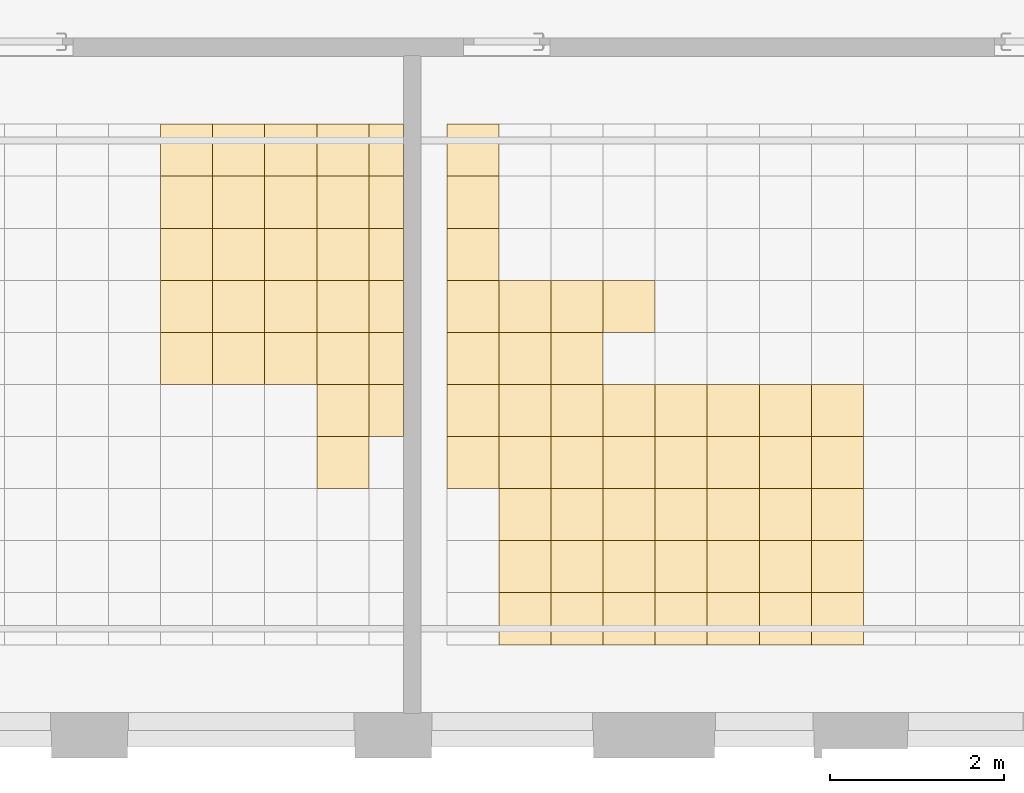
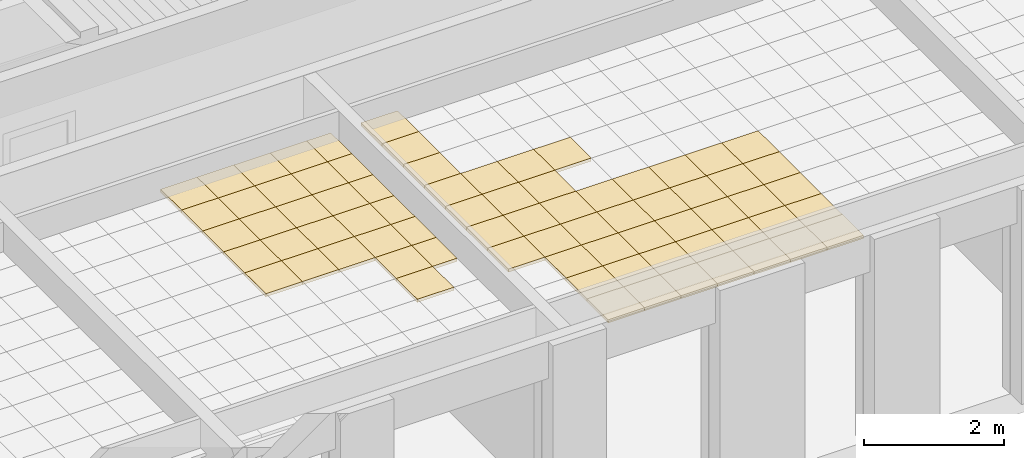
# One storey, part 73 of 79: 75 coverings.
"""IFC2X3 building model written with IfcOpenShell, lengths in millimetres."""

from ifc_helpers import new_model, entity, si_unit, converted_unit, derived_unit, money_unit, direction, frame, origin_with_axes, place, context, subcontext, project, spatial, faceted_brep, material, material_list, type_object, element, save


model = new_model("IFC2X3")

# Units and contexts
model_context = context("Model", 3, precision=0.01, world=origin_with_axes(), true_north=direction((0.0, 1.0)))
body_context = subcontext(model_context, "Body", "Model", "MODEL_VIEW")
ifc_project = project(units=[si_unit("LENGTHUNIT", "METRE", prefix="MILLI"), si_unit("AREAUNIT", "SQUARE_METRE"), si_unit("VOLUMEUNIT", "CUBIC_METRE"), converted_unit("PLANEANGLEUNIT", "DEGREE", entity("IfcPlaneAngleMeasure", 0.0174532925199), si_unit("PLANEANGLEUNIT", "RADIAN"), dimensions=[0, 0, 0, 0, 0, 0, 0]), si_unit("SOLIDANGLEUNIT", "STERADIAN"), money_unit("EUR"), converted_unit("TIMEUNIT", "Year", entity("IfcTimeMeasure", 31556926.0), si_unit("TIMEUNIT", "SECOND"), dimensions=[0, 0, 1, 0, 0, 0, 0]), si_unit("MASSUNIT", "GRAM", prefix="KILO"), si_unit("THERMODYNAMICTEMPERATUREUNIT", "DEGREE_CELSIUS"), si_unit("LUMINOUSINTENSITYUNIT", "LUMEN"), si_unit("ENERGYUNIT", "JOULE", prefix="MEGA"), derived_unit("THERMALCONDUCTANCEUNIT", [(si_unit("POWERUNIT", "WATT"), 1), (si_unit("LENGTHUNIT", "METRE"), -1), (si_unit("THERMODYNAMICTEMPERATUREUNIT", "KELVIN"), -1)]), derived_unit("SPECIFICHEATCAPACITYUNIT", [(si_unit("ENERGYUNIT", "JOULE"), 1), (si_unit("MASSUNIT", "GRAM", prefix="KILO"), -1), (si_unit("THERMODYNAMICTEMPERATUREUNIT", "KELVIN"), -1)]), derived_unit("MASSDENSITYUNIT", [(si_unit("MASSUNIT", "GRAM", prefix="KILO"), 1), (si_unit("VOLUMEUNIT", "CUBIC_METRE"), -1)])], contexts=[model_context])

# Site, building, storey
site_placement = place(None, origin_with_axes())
site = spatial("IfcSite", under=ifc_project, at=site_placement, Name="L.Koidula tn 11b", CompositionType="ELEMENT")
building_placement = place(site_placement, origin_with_axes())
building = spatial("IfcBuilding", under=site, at=building_placement, Name="Rakvere Riigigümnaasium", CompositionType="ELEMENT")
storey_placement = place(building_placement, frame((0.0, 0.0, 3720.0), z_axis=(0.0, 0.0, 1.0), x_axis=(1.0, 0.0, 0.0)))
storey = spatial("IfcBuildingStorey", under=building, at=storey_placement, Name="2.korrus +3,72", CompositionType="ELEMENT", Elevation=3720.0)

# Coverings
ifc_material_1 = material(Name="Karkass")
ifc_material_2 = material(Name="Kipsplaat")
ifc_material_list = material_list([ifc_material_1, ifc_material_2])
covering_type = type_object("IfcCoveringType", Name="SA-LV-Kips-moodul 55", PredefinedType="CEILING")
for number, where, z_axis, x_axis, name in (
    (1, (79169.7175594, 10490.4535941, 2750.0), (0.0, 0.0, 1.0), (1.0, 0.0, 0.0), "L-03"),
    (2, (77969.717611, 9890.45359412, 2750.0), (0.0, 0.0, 1.0), (1.0, 0.0, 0.0), "L-03"),
    (3, (77969.717611, 11690.4535941, 2750.0), (0.0, 0.0, 1.0), (1.0, 0.0, 0.0), "L-03"),
):
    element("IfcCovering", number, at=place(storey_placement, frame(where, z_axis=z_axis, x_axis=x_axis)), inside=storey, type_object=covering_type, material=ifc_material_list, Name=name, PredefinedType="CEILING", context=body_context, shape_type="Brep", body=[
        faceted_brep([(599.999948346, 0.0, 12.5), (599.999948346, 0.0, 54.5), (0.0, 0.0, 54.5), (0.0, 0.0, 12.5), (599.999948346, 600.0, 12.5), (599.999948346, 600.0, 54.5), (0.0, 600.0, 54.5), (0.0, 600.0, 12.5)], [[[0, 1, 2, 3]], [[4, 5, 1, 0]], [[2, 1, 5, 6]], [[3, 2, 6, 7]], [[3, 7, 4, 0]], [[7, 6, 5, 4]]]),
        faceted_brep([(0.0, 0.0, 0.0), (599.999948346, 0.0, 0.0), (599.999948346, 0.0, 12.5), (0.0, 0.0, 12.5), (0.0, 600.0, 0.0), (599.999948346, 600.0, 0.0), (599.999948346, 600.0, 12.5), (0.0, 600.0, 12.5)], [[[0, 1, 2, 3]], [[0, 4, 5, 1]], [[1, 5, 6, 2]], [[3, 2, 6, 7]], [[4, 0, 3, 7]], [[5, 4, 7, 6]]]),
    ])
for number, where, z_axis, x_axis, name in (
    (4, (79769.7175077, 8690.45359412, 2750.0), (0.0, 0.0, 1.0), (1.0, 0.0, 0.0), "L-03"),
    (5, (79769.7175077, 9290.45359412, 2750.0), (0.0, 0.0, 1.0), (1.0, 0.0, 0.0), "L-03"),
):
    element("IfcCovering", number, at=place(storey_placement, frame(where, z_axis=z_axis, x_axis=x_axis)), inside=storey, type_object=covering_type, material=ifc_material_list, Name=name, PredefinedType="CEILING", context=body_context, shape_type="Brep", body=[
        faceted_brep([(399.999039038, 0.0, 12.5), (399.999039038, 0.0, 54.5), (0.0, 0.0, 54.5), (0.0, 0.0, 12.5), (399.999039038, 600.0, 12.5), (399.999039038, 600.0, 54.5), (0.0, 600.0, 54.5), (0.0, 600.0, 12.5)], [[[0, 1, 2, 3]], [[4, 5, 1, 0]], [[2, 1, 5, 6]], [[3, 2, 6, 7]], [[3, 7, 4, 0]], [[7, 6, 5, 4]]]),
        faceted_brep([(0.0, 0.0, 0.0), (399.999039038, 0.0, 0.0), (399.999039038, 0.0, 12.5), (0.0, 0.0, 12.5), (0.0, 600.0, 0.0), (399.999039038, 600.0, 0.0), (399.999039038, 600.0, 12.5), (0.0, 600.0, 12.5)], [[[0, 1, 2, 3]], [[0, 4, 5, 1]], [[1, 5, 6, 2]], [[3, 2, 6, 7]], [[4, 0, 3, 7]], [[5, 4, 7, 6]]]),
    ])
covering_1_placement = place(storey_placement, frame((77969.717611, 9290.45359412, 2750.0), z_axis=(0.0, 0.0, 1.0), x_axis=(1.0, 0.0, 0.0)))
element("IfcCovering", 6, at=covering_1_placement, inside=storey, type_object=covering_type, material=ifc_material_list, Name="L-03", PredefinedType="CEILING", context=body_context, shape_type="Brep", body=[
    faceted_brep([(599.999948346, 0.0, 12.5), (599.999948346, 0.0, 54.5), (0.0, 0.0, 54.5), (0.0, 0.0, 12.5), (599.999948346, 600.0, 12.5), (599.999948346, 600.0, 54.5), (0.0, 600.0, 54.5), (0.0, 600.0, 12.5)], [[[0, 1, 2, 3]], [[4, 5, 1, 0]], [[2, 1, 5, 6]], [[3, 2, 6, 7]], [[3, 7, 4, 0]], [[7, 6, 5, 4]]]),
    faceted_brep([(0.0, 0.0, 0.0), (599.999948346, 0.0, 0.0), (599.999948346, 0.0, 12.5), (0.0, 0.0, 12.5), (0.0, 600.0, 0.0), (599.999948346, 600.0, 0.0), (599.999948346, 600.0, 12.5), (0.0, 600.0, 12.5)], [[[0, 1, 2, 3]], [[0, 4, 5, 1]], [[1, 5, 6, 2]], [[3, 2, 6, 7]], [[4, 0, 3, 7]], [[5, 4, 7, 6]]]),
])
for number, where, z_axis, x_axis, name in (
    (7, (79769.7175077, 9890.45359412, 2750.0), (0.0, 0.0, 1.0), (1.0, 0.0, 0.0), "L-03"),
    (8, (79769.7175077, 11090.4535941, 2750.0), (0.0, 0.0, 1.0), (1.0, 0.0, 0.0), "L-03"),
    (9, (79769.7175077, 10490.4535941, 2750.0), (0.0, 0.0, 1.0), (1.0, 0.0, 0.0), "L-03"),
    (10, (79769.7175077, 11690.4535941, 2750.0), (0.0, 0.0, 1.0), (1.0, 0.0, 0.0), "L-03"),
):
    element("IfcCovering", number, at=place(storey_placement, frame(where, z_axis=z_axis, x_axis=x_axis)), inside=storey, type_object=covering_type, material=ifc_material_list, Name=name, PredefinedType="CEILING", context=body_context, shape_type="Brep", body=[
        faceted_brep([(399.999039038, 0.0, 12.5), (399.999039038, 0.0, 54.5), (0.0, 0.0, 54.5), (0.0, 0.0, 12.5), (399.999039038, 600.0, 12.5), (399.999039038, 600.0, 54.5), (0.0, 600.0, 54.5), (0.0, 600.0, 12.5)], [[[0, 1, 2, 3]], [[4, 5, 1, 0]], [[2, 1, 5, 6]], [[3, 2, 6, 7]], [[3, 7, 4, 0]], [[7, 6, 5, 4]]]),
        faceted_brep([(0.0, 0.0, 0.0), (399.999039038, 0.0, 0.0), (399.999039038, 0.0, 12.5), (0.0, 0.0, 12.5), (0.0, 600.0, 0.0), (399.999039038, 600.0, 0.0), (399.999039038, 600.0, 12.5), (0.0, 600.0, 12.5)], [[[0, 1, 2, 3]], [[0, 4, 5, 1]], [[1, 5, 6, 2]], [[3, 2, 6, 7]], [[4, 0, 3, 7]], [[5, 4, 7, 6]]]),
    ])
for number, where, z_axis, x_axis, name in (
    (11, (78569.7175594, 10490.4535941, 2750.0), (0.0, 0.0, 1.0), (1.0, 0.0, 0.0), "L-03"),
    (12, (78569.7175594, 9890.45359412, 2750.0), (0.0, 0.0, 1.0), (1.0, 0.0, 0.0), "L-03"),
    (13, (78569.7175594, 9290.45359412, 2750.0), (0.0, 0.0, 1.0), (1.0, 0.0, 0.0), "L-03"),
):
    element("IfcCovering", number, at=place(storey_placement, frame(where, z_axis=z_axis, x_axis=x_axis)), inside=storey, type_object=covering_type, material=ifc_material_list, Name=name, PredefinedType="CEILING", context=body_context, shape_type="Brep", body=[
        faceted_brep([(600.0, 0.0, 12.5), (600.0, 0.0, 54.5), (0.0, 0.0, 54.5), (0.0, 0.0, 12.5), (600.0, 600.0, 12.5), (600.0, 600.0, 54.5), (0.0, 600.0, 54.5), (0.0, 600.0, 12.5)], [[[0, 1, 2, 3]], [[4, 5, 1, 0]], [[2, 1, 5, 6]], [[3, 2, 6, 7]], [[3, 7, 4, 0]], [[7, 6, 5, 4]]]),
        faceted_brep([(0.0, 0.0, 0.0), (600.0, 0.0, 0.0), (600.0, 0.0, 12.5), (0.0, 0.0, 12.5), (0.0, 600.0, 0.0), (600.0, 600.0, 0.0), (600.0, 600.0, 12.5), (0.0, 600.0, 12.5)], [[[0, 1, 2, 3]], [[0, 4, 5, 1]], [[1, 5, 6, 2]], [[3, 2, 6, 7]], [[4, 0, 3, 7]], [[5, 4, 7, 6]]]),
    ])
for number, where, z_axis, x_axis, name in (
    (14, (79169.7175594, 11690.4535941, 2750.0), (0.0, 0.0, 1.0), (1.0, 0.0, 0.0), "L-03"),
    (15, (79169.7175594, 8690.45359412, 2750.0), (0.0, 0.0, 1.0), (1.0, 0.0, 0.0), "L-03"),
    (16, (79169.7175594, 8090.45359412, 2750.0), (0.0, 0.0, 1.0), (1.0, 0.0, 0.0), "L-03"),
    (17, (79169.7175594, 9290.45359412, 2750.0), (0.0, 0.0, 1.0), (1.0, 0.0, 0.0), "L-03"),
    (18, (79169.7175594, 9890.45359412, 2750.0), (0.0, 0.0, 1.0), (1.0, 0.0, 0.0), "L-03"),
    (19, (79169.7175594, 11090.4535941, 2750.0), (0.0, 0.0, 1.0), (1.0, 0.0, 0.0), "L-03"),
    (20, (77969.717611, 10490.4535941, 2750.0), (0.0, 0.0, 1.0), (1.0, 0.0, 0.0), "L-03"),
):
    element("IfcCovering", number, at=place(storey_placement, frame(where, z_axis=z_axis, x_axis=x_axis)), inside=storey, type_object=covering_type, material=ifc_material_list, Name=name, PredefinedType="CEILING", context=body_context, shape_type="Brep", body=[
        faceted_brep([(599.999948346, 0.0, 12.5), (599.999948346, 0.0, 54.5), (0.0, 0.0, 54.5), (0.0, 0.0, 12.5), (599.999948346, 600.0, 12.5), (599.999948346, 600.0, 54.5), (0.0, 600.0, 54.5), (0.0, 600.0, 12.5)], [[[0, 1, 2, 3]], [[4, 5, 1, 0]], [[2, 1, 5, 6]], [[3, 2, 6, 7]], [[3, 7, 4, 0]], [[7, 6, 5, 4]]]),
        faceted_brep([(0.0, 0.0, 0.0), (599.999948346, 0.0, 0.0), (599.999948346, 0.0, 12.5), (0.0, 0.0, 12.5), (0.0, 600.0, 0.0), (599.999948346, 600.0, 0.0), (599.999948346, 600.0, 12.5), (0.0, 600.0, 12.5)], [[[0, 1, 2, 3]], [[0, 4, 5, 1]], [[1, 5, 6, 2]], [[3, 2, 6, 7]], [[4, 0, 3, 7]], [[5, 4, 7, 6]]]),
    ])
for number, where, z_axis, x_axis, name in (
    (21, (77369.717611, 11690.4535941, 2750.0), (0.0, 0.0, 1.0), (1.0, 0.0, 0.0), "L-03"),
    (22, (78569.7175594, 11090.4535941, 2750.0), (0.0, 0.0, 1.0), (1.0, 0.0, 0.0), "L-03"),
    (23, (77369.717611, 11090.4535941, 2750.0), (0.0, 0.0, 1.0), (1.0, 0.0, 0.0), "L-03"),
    (24, (78569.7175594, 11690.4535941, 2750.0), (0.0, 0.0, 1.0), (1.0, 0.0, 0.0), "L-03"),
    (25, (77369.717611, 9890.45359412, 2750.0), (0.0, 0.0, 1.0), (1.0, 0.0, 0.0), "L-03"),
    (26, (77369.717611, 10490.4535941, 2750.0), (0.0, 0.0, 1.0), (1.0, 0.0, 0.0), "L-03"),
):
    element("IfcCovering", number, at=place(storey_placement, frame(where, z_axis=z_axis, x_axis=x_axis)), inside=storey, type_object=covering_type, material=ifc_material_list, Name=name, PredefinedType="CEILING", context=body_context, shape_type="Brep", body=[
        faceted_brep([(600.0, 0.0, 12.5), (600.0, 0.0, 54.5), (0.0, 0.0, 54.5), (0.0, 0.0, 12.5), (600.0, 600.0, 12.5), (600.0, 600.0, 54.5), (0.0, 600.0, 54.5), (0.0, 600.0, 12.5)], [[[0, 1, 2, 3]], [[4, 5, 1, 0]], [[2, 1, 5, 6]], [[3, 2, 6, 7]], [[3, 7, 4, 0]], [[7, 6, 5, 4]]]),
        faceted_brep([(0.0, 0.0, 0.0), (600.0, 0.0, 0.0), (600.0, 0.0, 12.5), (0.0, 0.0, 12.5), (0.0, 600.0, 0.0), (600.0, 600.0, 0.0), (600.0, 600.0, 12.5), (0.0, 600.0, 12.5)], [[[0, 1, 2, 3]], [[0, 4, 5, 1]], [[1, 5, 6, 2]], [[3, 2, 6, 7]], [[4, 0, 3, 7]], [[5, 4, 7, 6]]]),
    ])
covering_2_placement = place(storey_placement, frame((77969.717611, 11090.4535941, 2750.0), z_axis=(0.0, 0.0, 1.0), x_axis=(1.0, 0.0, 0.0)))
element("IfcCovering", 27, at=covering_2_placement, inside=storey, type_object=covering_type, material=ifc_material_list, Name="L-03", PredefinedType="CEILING", context=body_context, shape_type="Brep", body=[
    faceted_brep([(599.999948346, 0.0, 12.5), (599.999948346, 0.0, 54.5), (0.0, 0.0, 54.5), (0.0, 0.0, 12.5), (599.999948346, 600.0, 12.5), (599.999948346, 600.0, 54.5), (0.0, 600.0, 54.5), (0.0, 600.0, 12.5)], [[[0, 1, 2, 3]], [[4, 5, 1, 0]], [[2, 1, 5, 6]], [[3, 2, 6, 7]], [[3, 7, 4, 0]], [[7, 6, 5, 4]]]),
    faceted_brep([(0.0, 0.0, 0.0), (599.999948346, 0.0, 0.0), (599.999948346, 0.0, 12.5), (0.0, 0.0, 12.5), (0.0, 600.0, 0.0), (599.999948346, 600.0, 0.0), (599.999948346, 600.0, 12.5), (0.0, 600.0, 12.5)], [[[0, 1, 2, 3]], [[0, 4, 5, 1]], [[1, 5, 6, 2]], [[3, 2, 6, 7]], [[4, 0, 3, 7]], [[5, 4, 7, 6]]]),
])
covering_3_placement = place(storey_placement, frame((77369.717611, 9290.45359412, 2750.0), z_axis=(0.0, 0.0, 1.0), x_axis=(1.0, 0.0, 0.0)))
element("IfcCovering", 28, at=covering_3_placement, inside=storey, type_object=covering_type, material=ifc_material_list, Name="L-03", PredefinedType="CEILING", context=body_context, shape_type="Brep", body=[
    faceted_brep([(600.0, 0.0, 12.5), (600.0, 0.0, 54.5), (0.0, 0.0, 54.5), (0.0, 0.0, 12.5), (600.0, 600.0, 12.5), (600.0, 600.0, 54.5), (0.0, 600.0, 54.5), (0.0, 600.0, 12.5)], [[[0, 1, 2, 3]], [[4, 5, 1, 0]], [[2, 1, 5, 6]], [[3, 2, 6, 7]], [[3, 7, 4, 0]], [[7, 6, 5, 4]]]),
    faceted_brep([(0.0, 0.0, 0.0), (600.0, 0.0, 0.0), (600.0, 0.0, 12.5), (0.0, 0.0, 12.5), (0.0, 600.0, 0.0), (600.0, 600.0, 0.0), (600.0, 600.0, 12.5), (0.0, 600.0, 12.5)], [[[0, 1, 2, 3]], [[0, 4, 5, 1]], [[1, 5, 6, 2]], [[3, 2, 6, 7]], [[4, 0, 3, 7]], [[5, 4, 7, 6]]]),
])
for number, where, z_axis, x_axis, name in (
    (29, (81269.7447656, 6890.45359412, 2750.0), (0.0, 0.0, 1.0), (1.0, 0.0, 0.0), "L-03"),
    (30, (81269.7447656, 6290.45359412, 2750.0), (0.0, 0.0, 1.0), (1.0, 0.0, 0.0), "L-03"),
    (31, (81269.7447656, 7490.45359412, 2750.0), (0.0, 0.0, 1.0), (1.0, 0.0, 0.0), "L-03"),
    (32, (81269.7447656, 8690.45359412, 2750.0), (0.0, 0.0, 1.0), (1.0, 0.0, 0.0), "L-03"),
    (33, (81269.7447656, 8090.45359412, 2750.0), (0.0, 0.0, 1.0), (1.0, 0.0, 0.0), "L-03"),
    (34, (81269.7447656, 9290.45359412, 2750.0), (0.0, 0.0, 1.0), (1.0, 0.0, 0.0), "L-03"),
    (35, (81269.7447656, 9890.45359412, 2750.0), (0.0, 0.0, 1.0), (1.0, 0.0, 0.0), "L-03"),
):
    element("IfcCovering", number, at=place(storey_placement, frame(where, z_axis=z_axis, x_axis=x_axis)), inside=storey, type_object=covering_type, material=ifc_material_list, Name=name, PredefinedType="CEILING", context=body_context, shape_type="Brep", body=[
        faceted_brep([(599.999948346, 0.0, 12.5), (599.999948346, 0.0, 54.5), (0.0, 0.0, 54.5), (0.0, 0.0, 12.5), (599.999948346, 600.0, 12.5), (599.999948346, 600.0, 54.5), (0.0, 600.0, 54.5), (0.0, 600.0, 12.5)], [[[0, 1, 2, 3]], [[4, 5, 1, 0]], [[2, 1, 5, 6]], [[3, 2, 6, 7]], [[3, 7, 4, 0]], [[7, 6, 5, 4]]]),
        faceted_brep([(0.0, 0.0, 0.0), (599.999948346, 0.0, 0.0), (599.999948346, 0.0, 12.5), (0.0, 0.0, 12.5), (0.0, 600.0, 0.0), (599.999948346, 600.0, 0.0), (599.999948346, 600.0, 12.5), (0.0, 600.0, 12.5)], [[[0, 1, 2, 3]], [[0, 4, 5, 1]], [[1, 5, 6, 2]], [[3, 2, 6, 7]], [[4, 0, 3, 7]], [[5, 4, 7, 6]]]),
    ])
for number, where, z_axis, x_axis, name in (
    (36, (80669.7443135, 8690.45359412, 2750.0), (0.0, 0.0, 1.0), (1.0, 0.0, 0.0), "L-03"),
    (37, (80669.7443135, 8090.45359412, 2750.0), (0.0, 0.0, 1.0), (1.0, 0.0, 0.0), "L-03"),
    (38, (80669.7443135, 11090.4535941, 2750.0), (0.0, 0.0, 1.0), (1.0, 0.0, 0.0), "L-03"),
    (39, (80669.7443135, 10490.4535941, 2750.0), (0.0, 0.0, 1.0), (1.0, 0.0, 0.0), "L-03"),
    (40, (80669.7443135, 9890.45359412, 2750.0), (0.0, 0.0, 1.0), (1.0, 0.0, 0.0), "L-03"),
    (41, (80669.7443135, 9290.45359412, 2750.0), (0.0, 0.0, 1.0), (1.0, 0.0, 0.0), "L-03"),
    (42, (80669.7443135, 11690.4535941, 2750.0), (0.0, 0.0, 1.0), (1.0, 0.0, 0.0), "L-03"),
):
    element("IfcCovering", number, at=place(storey_placement, frame(where, z_axis=z_axis, x_axis=x_axis)), inside=storey, type_object=covering_type, material=ifc_material_list, Name=name, PredefinedType="CEILING", context=body_context, shape_type="Brep", body=[
        faceted_brep([(600.000452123, 0.0, 12.5), (600.000452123, 0.0, 54.5), (0.0, 0.0, 54.5), (0.0, 0.0, 12.5), (600.000452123, 600.0, 12.5), (600.000452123, 600.0, 54.5), (0.0, 600.0, 54.5), (0.0, 600.0, 12.5)], [[[0, 1, 2, 3]], [[4, 5, 1, 0]], [[2, 1, 5, 6]], [[3, 2, 6, 7]], [[3, 7, 4, 0]], [[7, 6, 5, 4]]]),
        faceted_brep([(0.0, 0.0, 0.0), (600.000452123, 0.0, 0.0), (600.000452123, 0.0, 12.5), (0.0, 0.0, 12.5), (0.0, 600.0, 0.0), (600.000452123, 600.0, 0.0), (600.000452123, 600.0, 12.5), (0.0, 600.0, 12.5)], [[[0, 1, 2, 3]], [[0, 4, 5, 1]], [[1, 5, 6, 2]], [[3, 2, 6, 7]], [[4, 0, 3, 7]], [[5, 4, 7, 6]]]),
    ])
for number, where, z_axis, x_axis, name in (
    (43, (83669.7446623, 6290.45359412, 2750.0), (0.0, 0.0, 1.0), (1.0, 0.0, 0.0), "L-03"),
    (44, (83669.7446623, 7490.45359412, 2750.0), (0.0, 0.0, 1.0), (1.0, 0.0, 0.0), "L-03"),
    (45, (82469.744714, 9890.45359412, 2750.0), (0.0, 0.0, 1.0), (1.0, 0.0, 0.0), "L-03"),
    (46, (83669.7446623, 8090.45359412, 2750.0), (0.0, 0.0, 1.0), (1.0, 0.0, 0.0), "L-03"),
    (47, (83669.7446623, 8690.45359412, 2750.0), (0.0, 0.0, 1.0), (1.0, 0.0, 0.0), "L-03"),
):
    element("IfcCovering", number, at=place(storey_placement, frame(where, z_axis=z_axis, x_axis=x_axis)), inside=storey, type_object=covering_type, material=ifc_material_list, Name=name, PredefinedType="CEILING", context=body_context, shape_type="Brep", body=[
        faceted_brep([(599.999948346, 0.0, 12.5), (599.999948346, 0.0, 54.5), (0.0, 0.0, 54.5), (0.0, 0.0, 12.5), (599.999948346, 600.0, 12.5), (599.999948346, 600.0, 54.5), (0.0, 600.0, 54.5), (0.0, 600.0, 12.5)], [[[0, 1, 2, 3]], [[4, 5, 1, 0]], [[2, 1, 5, 6]], [[3, 2, 6, 7]], [[3, 7, 4, 0]], [[7, 6, 5, 4]]]),
        faceted_brep([(0.0, 0.0, 0.0), (599.999948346, 0.0, 0.0), (599.999948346, 0.0, 12.5), (0.0, 0.0, 12.5), (0.0, 600.0, 0.0), (599.999948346, 600.0, 0.0), (599.999948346, 600.0, 12.5), (0.0, 600.0, 12.5)], [[[0, 1, 2, 3]], [[0, 4, 5, 1]], [[1, 5, 6, 2]], [[3, 2, 6, 7]], [[4, 0, 3, 7]], [[5, 4, 7, 6]]]),
    ])
for number, where, z_axis, x_axis, name in (
    (48, (81869.744714, 6290.45359412, 2750.0), (0.0, 0.0, 1.0), (1.0, 0.0, 0.0), "L-03"),
    (49, (81869.744714, 6890.45359412, 2750.0), (0.0, 0.0, 1.0), (1.0, 0.0, 0.0), "L-03"),
    (50, (81869.744714, 9290.45359412, 2750.0), (0.0, 0.0, 1.0), (1.0, 0.0, 0.0), "L-03"),
    (51, (81869.744714, 9890.45359412, 2750.0), (0.0, 0.0, 1.0), (1.0, 0.0, 0.0), "L-03"),
    (52, (84269.7446107, 6890.45359412, 2750.0), (0.0, 0.0, 1.0), (1.0, 0.0, 0.0), "L-03"),
):
    element("IfcCovering", number, at=place(storey_placement, frame(where, z_axis=z_axis, x_axis=x_axis)), inside=storey, type_object=covering_type, material=ifc_material_list, Name=name, PredefinedType="CEILING", context=body_context, shape_type="Brep", body=[
        faceted_brep([(600.0, 0.0, 12.5), (600.0, 0.0, 54.5), (0.0, 0.0, 54.5), (0.0, 0.0, 12.5), (600.0, 600.0, 12.5), (600.0, 600.0, 54.5), (0.0, 600.0, 54.5), (0.0, 600.0, 12.5)], [[[0, 1, 2, 3]], [[4, 5, 1, 0]], [[2, 1, 5, 6]], [[3, 2, 6, 7]], [[3, 7, 4, 0]], [[7, 6, 5, 4]]]),
        faceted_brep([(0.0, 0.0, 0.0), (600.0, 0.0, 0.0), (600.0, 0.0, 12.5), (0.0, 0.0, 12.5), (0.0, 600.0, 0.0), (600.0, 600.0, 0.0), (600.0, 600.0, 12.5), (0.0, 600.0, 12.5)], [[[0, 1, 2, 3]], [[0, 4, 5, 1]], [[1, 5, 6, 2]], [[3, 2, 6, 7]], [[4, 0, 3, 7]], [[5, 4, 7, 6]]]),
    ])
covering_4_placement = place(storey_placement, frame((82469.744714, 8690.45359412, 2750.0), z_axis=(0.0, 0.0, 1.0), x_axis=(1.0, 0.0, 0.0)))
element("IfcCovering", 53, at=covering_4_placement, inside=storey, type_object=covering_type, material=ifc_material_list, Name="L-03", PredefinedType="CEILING", context=body_context, shape_type="Brep", body=[
    faceted_brep([(599.999948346, 0.0, 12.5), (599.999948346, 0.0, 54.5), (0.0, 0.0, 54.5), (0.0, 0.0, 12.5), (599.999948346, 600.0, 12.5), (599.999948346, 600.0, 54.5), (0.0, 600.0, 54.5), (0.0, 600.0, 12.5)], [[[0, 1, 2, 3]], [[4, 5, 1, 0]], [[2, 1, 5, 6]], [[3, 2, 6, 7]], [[3, 7, 4, 0]], [[7, 6, 5, 4]]]),
    faceted_brep([(0.0, 0.0, 0.0), (599.999948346, 0.0, 0.0), (599.999948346, 0.0, 12.5), (0.0, 0.0, 12.5), (0.0, 600.0, 0.0), (599.999948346, 600.0, 0.0), (599.999948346, 600.0, 12.5), (0.0, 600.0, 12.5)], [[[0, 1, 2, 3]], [[0, 4, 5, 1]], [[1, 5, 6, 2]], [[3, 2, 6, 7]], [[4, 0, 3, 7]], [[5, 4, 7, 6]]]),
])
for number, where, z_axis, x_axis, name in (
    (54, (84269.7446107, 6290.45359412, 2750.0), (0.0, 0.0, 1.0), (1.0, 0.0, 0.0), "L-03"),
    (55, (83069.7446623, 8090.45359412, 2750.0), (0.0, 0.0, 1.0), (1.0, 0.0, 0.0), "L-03"),
    (56, (83069.7446623, 7490.45359412, 2750.0), (0.0, 0.0, 1.0), (1.0, 0.0, 0.0), "L-03"),
):
    element("IfcCovering", number, at=place(storey_placement, frame(where, z_axis=z_axis, x_axis=x_axis)), inside=storey, type_object=covering_type, material=ifc_material_list, Name=name, PredefinedType="CEILING", context=body_context, shape_type="Brep", body=[
        faceted_brep([(600.0, 0.0, 12.5), (600.0, 0.0, 54.5), (0.0, 0.0, 54.5), (0.0, 0.0, 12.5), (600.0, 600.0, 12.5), (600.0, 600.0, 54.5), (0.0, 600.0, 54.5), (0.0, 600.0, 12.5)], [[[0, 1, 2, 3]], [[4, 5, 1, 0]], [[2, 1, 5, 6]], [[3, 2, 6, 7]], [[3, 7, 4, 0]], [[7, 6, 5, 4]]]),
        faceted_brep([(0.0, 0.0, 0.0), (600.0, 0.0, 0.0), (600.0, 0.0, 12.5), (0.0, 0.0, 12.5), (0.0, 600.0, 0.0), (600.0, 600.0, 0.0), (600.0, 600.0, 12.5), (0.0, 600.0, 12.5)], [[[0, 1, 2, 3]], [[0, 4, 5, 1]], [[1, 5, 6, 2]], [[3, 2, 6, 7]], [[4, 0, 3, 7]], [[5, 4, 7, 6]]]),
    ])
for number, where, z_axis, x_axis, name in (
    (57, (83669.7446623, 6890.45359412, 2750.0), (0.0, 0.0, 1.0), (1.0, 0.0, 0.0), "L-03"),
    (58, (82469.744714, 8090.45359412, 2750.0), (0.0, 0.0, 1.0), (1.0, 0.0, 0.0), "L-03"),
):
    element("IfcCovering", number, at=place(storey_placement, frame(where, z_axis=z_axis, x_axis=x_axis)), inside=storey, type_object=covering_type, material=ifc_material_list, Name=name, PredefinedType="CEILING", context=body_context, shape_type="Brep", body=[
        faceted_brep([(599.999948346, 0.0, 12.5), (599.999948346, 0.0, 54.5), (0.0, 0.0, 54.5), (0.0, 0.0, 12.5), (599.999948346, 600.0, 12.5), (599.999948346, 600.0, 54.5), (0.0, 600.0, 54.5), (0.0, 600.0, 12.5)], [[[0, 1, 2, 3]], [[4, 5, 1, 0]], [[2, 1, 5, 6]], [[3, 2, 6, 7]], [[3, 7, 4, 0]], [[7, 6, 5, 4]]]),
        faceted_brep([(0.0, 0.0, 0.0), (599.999948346, 0.0, 0.0), (599.999948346, 0.0, 12.5), (0.0, 0.0, 12.5), (0.0, 600.0, 0.0), (599.999948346, 600.0, 0.0), (599.999948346, 600.0, 12.5), (0.0, 600.0, 12.5)], [[[0, 1, 2, 3]], [[0, 4, 5, 1]], [[1, 5, 6, 2]], [[3, 2, 6, 7]], [[4, 0, 3, 7]], [[5, 4, 7, 6]]]),
    ])
for number, where, z_axis, x_axis, name in (
    (59, (83069.7446623, 6290.45359412, 2750.0), (0.0, 0.0, 1.0), (1.0, 0.0, 0.0), "L-03"),
    (60, (84269.7446107, 8690.45359412, 2750.0), (0.0, 0.0, 1.0), (1.0, 0.0, 0.0), "L-03"),
    (61, (84269.7446107, 8090.45359412, 2750.0), (0.0, 0.0, 1.0), (1.0, 0.0, 0.0), "L-03"),
    (62, (84269.7446107, 7490.45359412, 2750.0), (0.0, 0.0, 1.0), (1.0, 0.0, 0.0), "L-03"),
):
    element("IfcCovering", number, at=place(storey_placement, frame(where, z_axis=z_axis, x_axis=x_axis)), inside=storey, type_object=covering_type, material=ifc_material_list, Name=name, PredefinedType="CEILING", context=body_context, shape_type="Brep", body=[
        faceted_brep([(600.0, 0.0, 12.5), (600.0, 0.0, 54.5), (0.0, 0.0, 54.5), (0.0, 0.0, 12.5), (600.0, 600.0, 12.5), (600.0, 600.0, 54.5), (0.0, 600.0, 54.5), (0.0, 600.0, 12.5)], [[[0, 1, 2, 3]], [[4, 5, 1, 0]], [[2, 1, 5, 6]], [[3, 2, 6, 7]], [[3, 7, 4, 0]], [[7, 6, 5, 4]]]),
        faceted_brep([(0.0, 0.0, 0.0), (600.0, 0.0, 0.0), (600.0, 0.0, 12.5), (0.0, 0.0, 12.5), (0.0, 600.0, 0.0), (600.0, 600.0, 0.0), (600.0, 600.0, 12.5), (0.0, 600.0, 12.5)], [[[0, 1, 2, 3]], [[0, 4, 5, 1]], [[1, 5, 6, 2]], [[3, 2, 6, 7]], [[4, 0, 3, 7]], [[5, 4, 7, 6]]]),
    ])
for number, where, z_axis, x_axis, name in (
    (63, (84869.7446107, 6890.45359412, 2750.0), (0.0, 0.0, 1.0), (1.0, 0.0, 0.0), "L-03"),
    (64, (84869.7446107, 6290.45359412, 2750.0), (0.0, 0.0, 1.0), (1.0, 0.0, 0.0), "L-03"),
):
    element("IfcCovering", number, at=place(storey_placement, frame(where, z_axis=z_axis, x_axis=x_axis)), inside=storey, type_object=covering_type, material=ifc_material_list, Name=name, PredefinedType="CEILING", context=body_context, shape_type="Brep", body=[
        faceted_brep([(599.999948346, 0.0, 12.5), (599.999948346, 0.0, 54.5), (0.0, 0.0, 54.5), (0.0, 0.0, 12.5), (599.999948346, 600.0, 12.5), (599.999948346, 600.0, 54.5), (0.0, 600.0, 54.5), (0.0, 600.0, 12.5)], [[[0, 1, 2, 3]], [[4, 5, 1, 0]], [[2, 1, 5, 6]], [[3, 2, 6, 7]], [[3, 7, 4, 0]], [[7, 6, 5, 4]]]),
        faceted_brep([(0.0, 0.0, 0.0), (599.999948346, 0.0, 0.0), (599.999948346, 0.0, 12.5), (0.0, 0.0, 12.5), (0.0, 600.0, 0.0), (599.999948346, 600.0, 0.0), (599.999948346, 600.0, 12.5), (0.0, 600.0, 12.5)], [[[0, 1, 2, 3]], [[0, 4, 5, 1]], [[1, 5, 6, 2]], [[3, 2, 6, 7]], [[4, 0, 3, 7]], [[5, 4, 7, 6]]]),
    ])
for number, where, z_axis, x_axis, name in (
    (65, (83069.7446623, 6890.45359412, 2750.0), (0.0, 0.0, 1.0), (1.0, 0.0, 0.0), "L-03"),
    (66, (83069.7446623, 8690.45359412, 2750.0), (0.0, 0.0, 1.0), (1.0, 0.0, 0.0), "L-03"),
):
    element("IfcCovering", number, at=place(storey_placement, frame(where, z_axis=z_axis, x_axis=x_axis)), inside=storey, type_object=covering_type, material=ifc_material_list, Name=name, PredefinedType="CEILING", context=body_context, shape_type="Brep", body=[
        faceted_brep([(600.0, 0.0, 12.5), (600.0, 0.0, 54.5), (0.0, 0.0, 54.5), (0.0, 0.0, 12.5), (600.0, 600.0, 12.5), (600.0, 600.0, 54.5), (0.0, 600.0, 54.5), (0.0, 600.0, 12.5)], [[[0, 1, 2, 3]], [[4, 5, 1, 0]], [[2, 1, 5, 6]], [[3, 2, 6, 7]], [[3, 7, 4, 0]], [[7, 6, 5, 4]]]),
        faceted_brep([(0.0, 0.0, 0.0), (600.0, 0.0, 0.0), (600.0, 0.0, 12.5), (0.0, 0.0, 12.5), (0.0, 600.0, 0.0), (600.0, 600.0, 0.0), (600.0, 600.0, 12.5), (0.0, 600.0, 12.5)], [[[0, 1, 2, 3]], [[0, 4, 5, 1]], [[1, 5, 6, 2]], [[3, 2, 6, 7]], [[4, 0, 3, 7]], [[5, 4, 7, 6]]]),
    ])
for number, where, z_axis, x_axis, name in (
    (67, (84869.7446107, 8090.45359412, 2750.0), (0.0, 0.0, 1.0), (1.0, 0.0, 0.0), "L-03"),
    (68, (82469.744714, 6890.45359412, 2750.0), (0.0, 0.0, 1.0), (1.0, 0.0, 0.0), "L-03"),
    (69, (82469.744714, 6290.45359412, 2750.0), (0.0, 0.0, 1.0), (1.0, 0.0, 0.0), "L-03"),
    (70, (82469.744714, 7490.45359412, 2750.0), (0.0, 0.0, 1.0), (1.0, 0.0, 0.0), "L-03"),
):
    element("IfcCovering", number, at=place(storey_placement, frame(where, z_axis=z_axis, x_axis=x_axis)), inside=storey, type_object=covering_type, material=ifc_material_list, Name=name, PredefinedType="CEILING", context=body_context, shape_type="Brep", body=[
        faceted_brep([(599.999948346, 0.0, 12.5), (599.999948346, 0.0, 54.5), (0.0, 0.0, 54.5), (0.0, 0.0, 12.5), (599.999948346, 600.0, 12.5), (599.999948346, 600.0, 54.5), (0.0, 600.0, 54.5), (0.0, 600.0, 12.5)], [[[0, 1, 2, 3]], [[4, 5, 1, 0]], [[2, 1, 5, 6]], [[3, 2, 6, 7]], [[3, 7, 4, 0]], [[7, 6, 5, 4]]]),
        faceted_brep([(0.0, 0.0, 0.0), (599.999948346, 0.0, 0.0), (599.999948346, 0.0, 12.5), (0.0, 0.0, 12.5), (0.0, 600.0, 0.0), (599.999948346, 600.0, 0.0), (599.999948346, 600.0, 12.5), (0.0, 600.0, 12.5)], [[[0, 1, 2, 3]], [[0, 4, 5, 1]], [[1, 5, 6, 2]], [[3, 2, 6, 7]], [[4, 0, 3, 7]], [[5, 4, 7, 6]]]),
    ])
covering_5_placement = place(storey_placement, frame((81869.744714, 8690.45359412, 2750.0), z_axis=(0.0, 0.0, 1.0), x_axis=(1.0, 0.0, 0.0)))
element("IfcCovering", 71, at=covering_5_placement, inside=storey, type_object=covering_type, material=ifc_material_list, Name="L-03", PredefinedType="CEILING", context=body_context, shape_type="Brep", body=[
    faceted_brep([(600.0, 0.0, 12.5), (600.0, 0.0, 54.5), (0.0, 0.0, 54.5), (0.0, 0.0, 12.5), (600.0, 600.0, 12.5), (600.0, 600.0, 54.5), (0.0, 600.0, 54.5), (0.0, 600.0, 12.5)], [[[0, 1, 2, 3]], [[4, 5, 1, 0]], [[2, 1, 5, 6]], [[3, 2, 6, 7]], [[3, 7, 4, 0]], [[7, 6, 5, 4]]]),
    faceted_brep([(0.0, 0.0, 0.0), (600.0, 0.0, 0.0), (600.0, 0.0, 12.5), (0.0, 0.0, 12.5), (0.0, 600.0, 0.0), (600.0, 600.0, 0.0), (600.0, 600.0, 12.5), (0.0, 600.0, 12.5)], [[[0, 1, 2, 3]], [[0, 4, 5, 1]], [[1, 5, 6, 2]], [[3, 2, 6, 7]], [[4, 0, 3, 7]], [[5, 4, 7, 6]]]),
])
covering_6_placement = place(storey_placement, frame((84869.7446107, 8690.45359412, 2750.0), z_axis=(0.0, 0.0, 1.0), x_axis=(1.0, 0.0, 0.0)))
element("IfcCovering", 72, at=covering_6_placement, inside=storey, type_object=covering_type, material=ifc_material_list, Name="L-03", PredefinedType="CEILING", context=body_context, shape_type="Brep", body=[
    faceted_brep([(599.999948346, 0.0, 12.5), (599.999948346, 0.0, 54.5), (0.0, 0.0, 54.5), (0.0, 0.0, 12.5), (599.999948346, 600.0, 12.5), (599.999948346, 600.0, 54.5), (0.0, 600.0, 54.5), (0.0, 600.0, 12.5)], [[[0, 1, 2, 3]], [[4, 5, 1, 0]], [[2, 1, 5, 6]], [[3, 2, 6, 7]], [[3, 7, 4, 0]], [[7, 6, 5, 4]]]),
    faceted_brep([(0.0, 0.0, 0.0), (599.999948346, 0.0, 0.0), (599.999948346, 0.0, 12.5), (0.0, 0.0, 12.5), (0.0, 600.0, 0.0), (599.999948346, 600.0, 0.0), (599.999948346, 600.0, 12.5), (0.0, 600.0, 12.5)], [[[0, 1, 2, 3]], [[0, 4, 5, 1]], [[1, 5, 6, 2]], [[3, 2, 6, 7]], [[4, 0, 3, 7]], [[5, 4, 7, 6]]]),
])
covering_7_placement = place(storey_placement, frame((81869.744714, 7490.45359412, 2750.0), z_axis=(0.0, 0.0, 1.0), x_axis=(1.0, 0.0, 0.0)))
element("IfcCovering", 73, at=covering_7_placement, inside=storey, type_object=covering_type, material=ifc_material_list, Name="L-03", PredefinedType="CEILING", context=body_context, shape_type="Brep", body=[
    faceted_brep([(600.0, 0.0, 12.5), (600.0, 0.0, 54.5), (0.0, 0.0, 54.5), (0.0, 0.0, 12.5), (600.0, 600.0, 12.5), (600.0, 600.0, 54.5), (0.0, 600.0, 54.5), (0.0, 600.0, 12.5)], [[[0, 1, 2, 3]], [[4, 5, 1, 0]], [[2, 1, 5, 6]], [[3, 2, 6, 7]], [[3, 7, 4, 0]], [[7, 6, 5, 4]]]),
    faceted_brep([(0.0, 0.0, 0.0), (600.0, 0.0, 0.0), (600.0, 0.0, 12.5), (0.0, 0.0, 12.5), (0.0, 600.0, 0.0), (600.0, 600.0, 0.0), (600.0, 600.0, 12.5), (0.0, 600.0, 12.5)], [[[0, 1, 2, 3]], [[0, 4, 5, 1]], [[1, 5, 6, 2]], [[3, 2, 6, 7]], [[4, 0, 3, 7]], [[5, 4, 7, 6]]]),
])
covering_8_placement = place(storey_placement, frame((84869.7446107, 7490.45359412, 2750.0), z_axis=(0.0, 0.0, 1.0), x_axis=(1.0, 0.0, 0.0)))
element("IfcCovering", 74, at=covering_8_placement, inside=storey, type_object=covering_type, material=ifc_material_list, Name="L-03", PredefinedType="CEILING", context=body_context, shape_type="Brep", body=[
    faceted_brep([(599.999948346, 0.0, 12.5), (599.999948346, 0.0, 54.5), (0.0, 0.0, 54.5), (0.0, 0.0, 12.5), (599.999948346, 600.0, 12.5), (599.999948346, 600.0, 54.5), (0.0, 600.0, 54.5), (0.0, 600.0, 12.5)], [[[0, 1, 2, 3]], [[4, 5, 1, 0]], [[2, 1, 5, 6]], [[3, 2, 6, 7]], [[3, 7, 4, 0]], [[7, 6, 5, 4]]]),
    faceted_brep([(0.0, 0.0, 0.0), (599.999948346, 0.0, 0.0), (599.999948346, 0.0, 12.5), (0.0, 0.0, 12.5), (0.0, 600.0, 0.0), (599.999948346, 600.0, 0.0), (599.999948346, 600.0, 12.5), (0.0, 600.0, 12.5)], [[[0, 1, 2, 3]], [[0, 4, 5, 1]], [[1, 5, 6, 2]], [[3, 2, 6, 7]], [[4, 0, 3, 7]], [[5, 4, 7, 6]]]),
])
covering_9_placement = place(storey_placement, frame((81869.744714, 8090.45359412, 2750.0), z_axis=(0.0, 0.0, 1.0), x_axis=(1.0, 0.0, 0.0)))
element("IfcCovering", 75, at=covering_9_placement, inside=storey, type_object=covering_type, material=ifc_material_list, Name="L-03", PredefinedType="CEILING", context=body_context, shape_type="Brep", body=[
    faceted_brep([(600.0, 0.0, 12.5), (600.0, 0.0, 54.5), (0.0, 0.0, 54.5), (0.0, 0.0, 12.5), (600.0, 600.0, 12.5), (600.0, 600.0, 54.5), (0.0, 600.0, 54.5), (0.0, 600.0, 12.5)], [[[0, 1, 2, 3]], [[4, 5, 1, 0]], [[2, 1, 5, 6]], [[3, 2, 6, 7]], [[3, 7, 4, 0]], [[7, 6, 5, 4]]]),
    faceted_brep([(0.0, 0.0, 0.0), (600.0, 0.0, 0.0), (600.0, 0.0, 12.5), (0.0, 0.0, 12.5), (0.0, 600.0, 0.0), (600.0, 600.0, 0.0), (600.0, 600.0, 12.5), (0.0, 600.0, 12.5)], [[[0, 1, 2, 3]], [[0, 4, 5, 1]], [[1, 5, 6, 2]], [[3, 2, 6, 7]], [[4, 0, 3, 7]], [[5, 4, 7, 6]]]),
])

save(model, "model.ifc")
